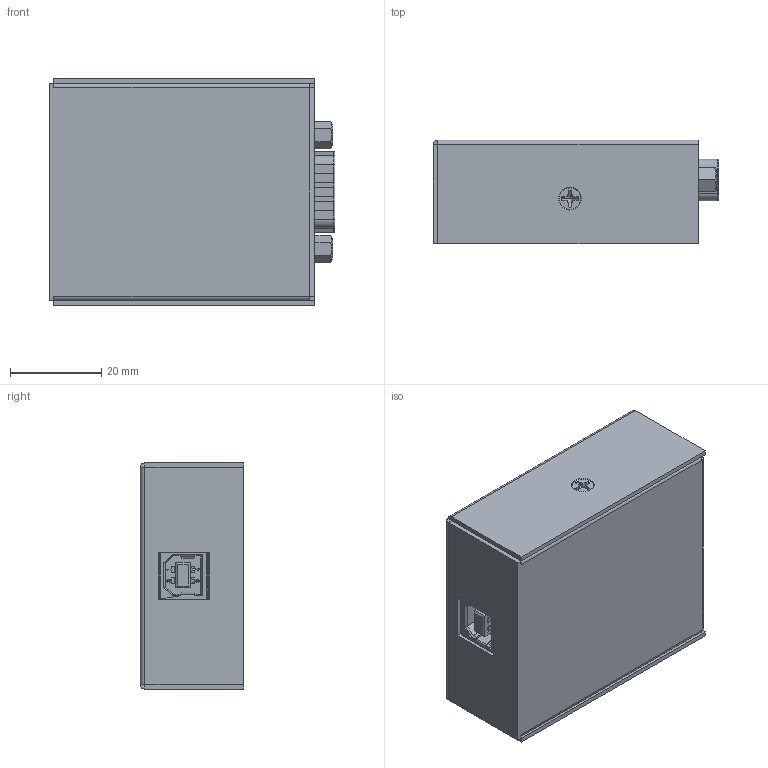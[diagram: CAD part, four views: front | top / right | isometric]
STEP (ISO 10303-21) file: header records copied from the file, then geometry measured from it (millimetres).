
FILE_DESCRIPTION(/* description */ (''),/* implementation_level */ '2;1');
FILE_NAME(/* name */ 'C:/Users/Leo/Desktop/CG-1PMGICAN/CG-1PMGICAN Model3D LPV1.step',/* time_stamp */ '2021-04-16T12:03:04-04:00',/* author */ (''),/* organization */ (''),/* preprocessor_version */ 'ST-DEVELOPER v18.1',/* originating_system */ 'Autodesk Translation Framework v10.6.0.1341',/* authorisation */ '');
FILE_SCHEMA (('AUTOMOTIVE_DESIGN { 1 0 10303 214 3 1 1 }'));
Products named in the file (9): CG-1PMGICAN; 93090A571; 5063N12_CIRCUIT BOARD D-SUB CONNECTOR; USB 2.0 Type B Connector Right Angle v1; Component7; LED Ø 3 mm v1 RED v1; LED Ø 3 mm v1 Green v1; M3x0.5.5 China 120ang METRIC 18-8 SS FLAT HEAD PHIL MACHINE SCREW v2; Component12
Assembly tree (11 placements, depth 2):
  CG-1PMGICAN
    93090A571  x3
    5063N12_CIRCUIT BOARD D-SUB CONNECTOR
    USB 2.0 Type B Connector Right Angle v1
    Component7
    LED Ø 3 mm v1 RED v1
    LED Ø 3 mm v1 Green v1
    M3x0.5.5 China 120ang METRIC 18-8 SS FLAT HEAD PHIL MACHINE SCREW v2  x2
    Component12
Bounding box: 62.68 x 22.7 x 49.7 mm (x, y, z)
Volume: 20648.8 mm3; surface area: 30504.7 mm2
Topology: 8 solids, 10 shells, 1441 faces, 4045 edges, 2603 vertices
Faces by surface type: plane 1063, cylinder 268, bspline 61, cone 26, torus 12, sphere 11
Full cylindrical faces by diameter (mm): 1 x9, 2 x2, 2.221 x24, 2.35 x8, 3 x42, 3.2 x3, 4.2 x2, 5 x2, 5.48 x2
Entity records: 57523 total; most frequent: CARTESIAN_POINT 20662, ORIENTED_EDGE 8060, DIRECTION 6866, EDGE_CURVE 4030, LINE 3128, VECTOR 3128, VERTEX_POINT 2603, AXIS2_PLACEMENT_3D 1869
